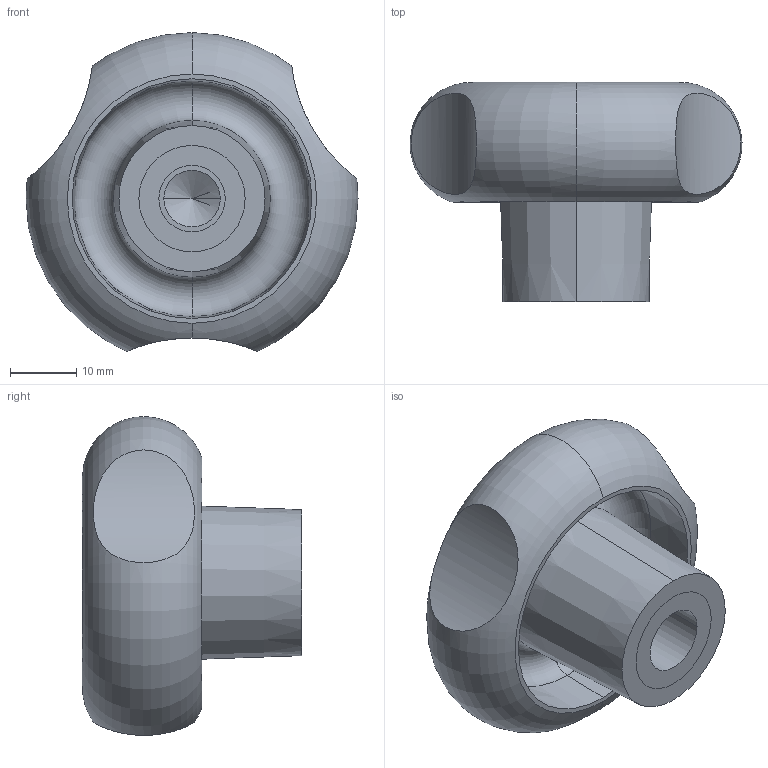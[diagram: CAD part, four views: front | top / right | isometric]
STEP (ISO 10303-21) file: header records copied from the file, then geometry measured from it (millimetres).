
FILE_DESCRIPTION (( 'STEP AP203' ), '1' );
FILE_NAME ('70580.W0100.step', '2017-10-27T09:56:31', ( '' ), ( '' ), 'SwSTEP 2.0', 'SolidWorks 2017', '' );
FILE_SCHEMA (( 'CONFIG_CONTROL_DESIGN' ));
Length unit declared in the file: millimetre
Products named in the file (3): Part2_70580.W0100; Part1_70580.W0100; 70580.W0100
Assembly tree (2 placements, depth 2):
  70580.W0100
    Part1_70580.W0100
    Part2_70580.W0100
Bounding box: 49.99 x 33 x 48 mm (x, y, z)
Volume: 26854.9 mm3; surface area: 11617.6 mm2
Topology: 2 solids, 2 shells, 30 faces, 63 edges, 41 vertices
Faces by surface type: cylinder 11, cone 6, plane 5, sphere 4, torus 4
Entity records: 1387 total; most frequent: CARTESIAN_POINT 417, DIRECTION 166, ORIENTED_EDGE 122, AXIS2_PLACEMENT_3D 76, EDGE_CURVE 61, VERTEX_POINT 41, CIRCLE 41, EDGE_LOOP 36
